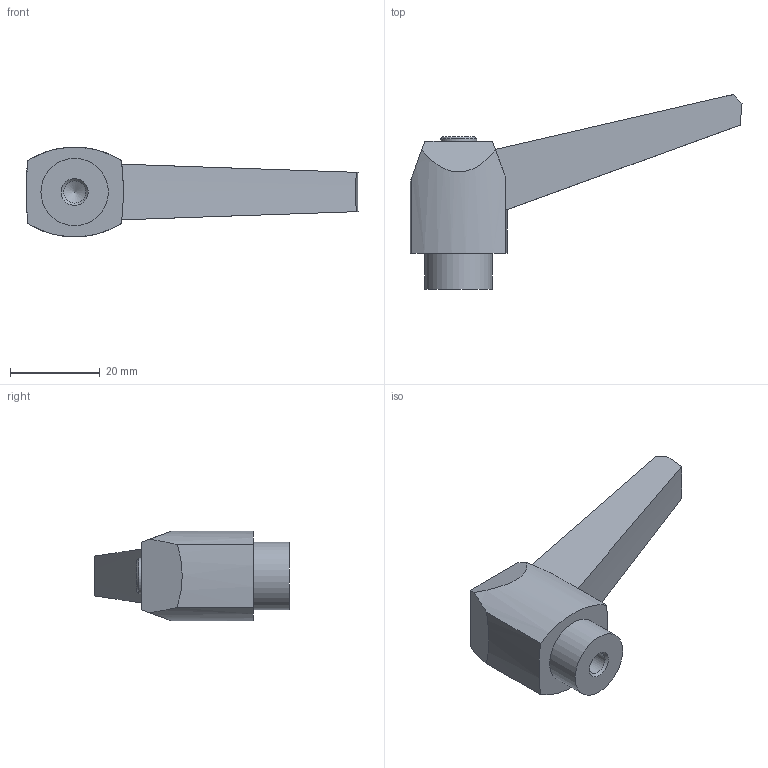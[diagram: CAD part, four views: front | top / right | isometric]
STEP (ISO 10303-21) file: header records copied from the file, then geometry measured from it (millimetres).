
FILE_DESCRIPTION( ( 'STEP AP203' ), '1' );
FILE_NAME( 'C:/Temp/Ganter_Step_05_03_2020/data/2_1/gn_500/gn_500_mb/Adjustable hand lever GN 500-63-M6-SW.stp', '2020-03-05T11:26:28', ( 'License CC BY-ND 4.0' ), ( 'CADENAS' ), ' ', 'PARTsolutions', ' ' );
FILE_SCHEMA( ( 'CONFIG_CONTROL_DESIGN' ) );
Length unit declared in the file: millimetre
Products named in the file (1): _Adjustable hand lever GN 500-63-M6-SW
Bounding box: 73.9 x 43.35 x 20 mm (x, y, z)
Volume: 16220.8 mm3; surface area: 5187.2 mm2
Topology: 1 solids, 1 shells, 24 faces, 58 edges, 38 vertices
Faces by surface type: plane 10, cone 7, cylinder 7
Full cylindrical faces by diameter (mm): 4.917 x1, 8 x1, 15 x1
Entity records: 712 total; most frequent: DIRECTION 122, CARTESIAN_POINT 118, ORIENTED_EDGE 100, EDGE_CURVE 50, AXIS2_PLACEMENT_3D 49, VERTEX_POINT 37, EDGE_LOOP 32, FACE_OUTER_BOUND 27
